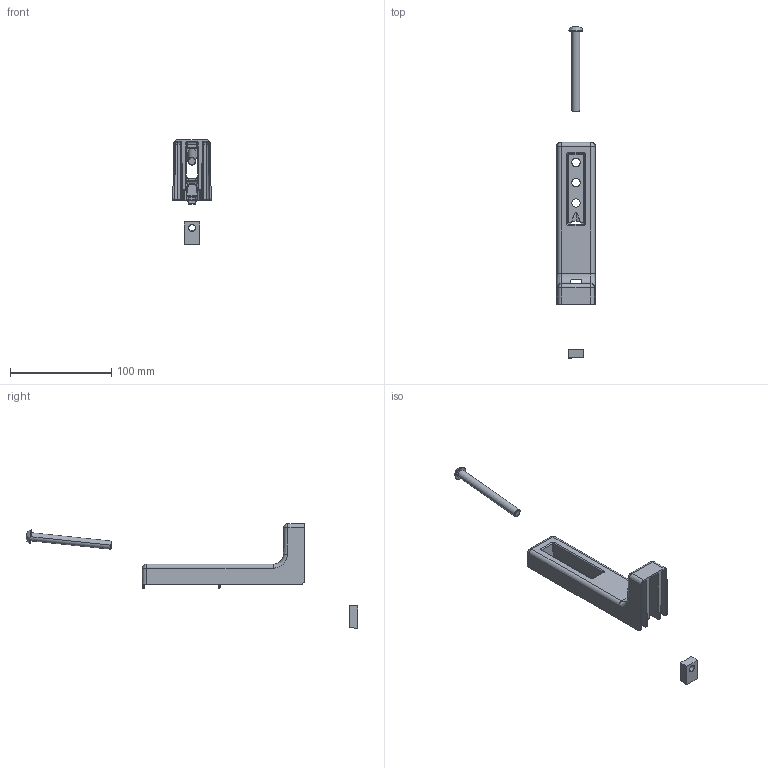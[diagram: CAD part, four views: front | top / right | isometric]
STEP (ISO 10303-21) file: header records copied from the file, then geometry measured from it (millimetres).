
FILE_DESCRIPTION (( 'STEP AP203' ), '1' );
FILE_NAME ('10635_WINMVER.STEP', '2018-03-29T13:14:01', ( '' ), ( '' ), 'SwSTEP 2.0', 'SolidWorks 2017', '' );
FILE_SCHEMA (( 'CONFIG_CONTROL_DESIGN' ));
Length unit declared in the file: millimetre
Products named in the file (1): 10635_WINMVER
Bounding box: 38 x 327.59 x 103.36 mm (x, y, z)
Volume: 66089 mm3; surface area: 46182.9 mm2
Topology: 3 solids, 3 shells, 551 faces, 1263 edges, 711 vertices
Faces by surface type: cylinder 212, bspline 200, plane 110, cone 29
Entity records: 24005 total; most frequent: CARTESIAN_POINT 12969, ORIENTED_EDGE 2494, DIRECTION 1990, EDGE_CURVE 1247, AXIS2_PLACEMENT_3D 737, VERTEX_POINT 711, EDGE_LOOP 572, FACE_OUTER_BOUND 551
